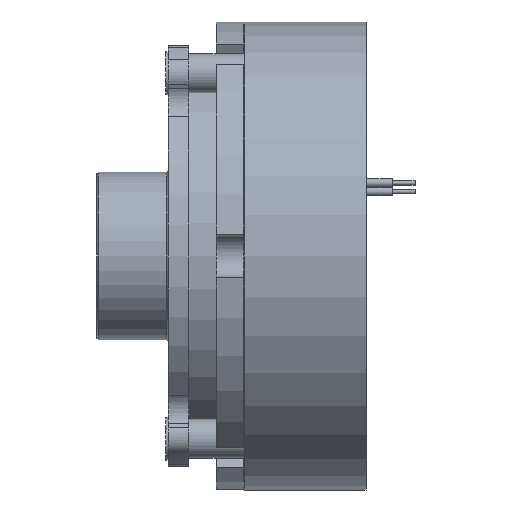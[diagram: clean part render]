
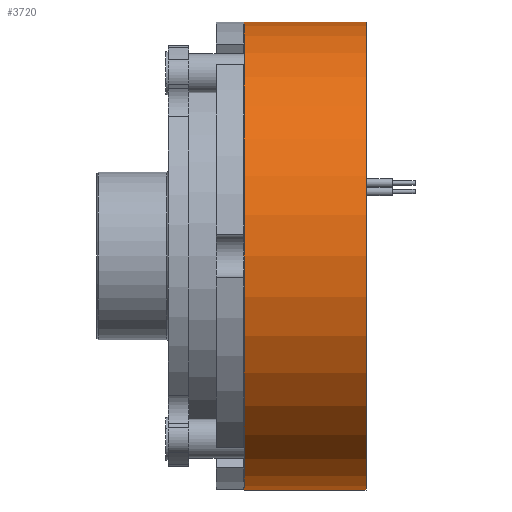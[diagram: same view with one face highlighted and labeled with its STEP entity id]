
A CAD part, front view. The second image highlights one B-rep face of the part: STEP entity #3720.
In plain terms, the highlighted cylindrical face has radius 51 mm (diameter 102 mm), a partial arc.
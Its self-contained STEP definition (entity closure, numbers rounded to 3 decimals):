
#40 = DIRECTION ( 'NONE',  ( -1., 0., 0. ) ) ;
#132 = CARTESIAN_POINT ( 'NONE',  ( 0., 0., -51. ) ) ;
#185 = CARTESIAN_POINT ( 'NONE',  ( 26.5, 0., 51. ) ) ;
#273 = EDGE_CURVE ( 'NONE', #1434, #2522, #2242, .T. ) ;
#327 = EDGE_CURVE ( 'NONE', #2522, #4288, #3989, .T. ) ;
#345 = VECTOR ( 'NONE', #4382, 1000. ) ;
#445 = AXIS2_PLACEMENT_3D ( 'NONE', #4444, #754, #3039 ) ;
#447 = ORIENTED_EDGE ( 'NONE', *, *, #327, .F. ) ;
#448 = DIRECTION ( 'NONE',  ( 0., 0., 1. ) ) ;
#754 = DIRECTION ( 'NONE',  ( -1., 0., 0. ) ) ;
#771 = EDGE_LOOP ( 'NONE', ( #3278, #1717, #1502, #447 ) ) ;
#936 = EDGE_CURVE ( 'NONE', #1657, #4288, #2426, .T. ) ;
#1263 = AXIS2_PLACEMENT_3D ( 'NONE', #3229, #3659, #448 ) ;
#1434 = VERTEX_POINT ( 'NONE', #3455 ) ;
#1502 = ORIENTED_EDGE ( 'NONE', *, *, #936, .T. ) ;
#1522 = CARTESIAN_POINT ( 'NONE',  ( 0., 0., 51. ) ) ;
#1657 = VERTEX_POINT ( 'NONE', #185 ) ;
#1717 = ORIENTED_EDGE ( 'NONE', *, *, #1876, .T. ) ;
#1876 = EDGE_CURVE ( 'NONE', #1434, #1657, #2096, .T. ) ;
#2096 = CIRCLE ( 'NONE', #1263, 51. ) ;
#2155 = VECTOR ( 'NONE', #40, 1000. ) ;
#2242 = LINE ( 'NONE', #3242, #2155 ) ;
#2426 = LINE ( 'NONE', #3290, #345 ) ;
#2522 = VERTEX_POINT ( 'NONE', #132 ) ;
#2742 = FACE_OUTER_BOUND ( 'NONE', #771, .T. ) ;
#3039 = DIRECTION ( 'NONE',  ( 0., 0., 1. ) ) ;
#3131 = DIRECTION ( 'NONE',  ( -1., 0., 0. ) ) ;
#3175 = CARTESIAN_POINT ( 'NONE',  ( 0., 0., 0. ) ) ;
#3229 = CARTESIAN_POINT ( 'NONE',  ( 26.5, 0., 0. ) ) ;
#3242 = CARTESIAN_POINT ( 'NONE',  ( 0., 0., -51. ) ) ;
#3278 = ORIENTED_EDGE ( 'NONE', *, *, #273, .F. ) ;
#3290 = CARTESIAN_POINT ( 'NONE',  ( 0., 0., 51. ) ) ;
#3455 = CARTESIAN_POINT ( 'NONE',  ( 26.5, 0., -51. ) ) ;
#3659 = DIRECTION ( 'NONE',  ( -1., 0., 0. ) ) ;
#3676 = CYLINDRICAL_SURFACE ( 'NONE', #4297, 51. ) ;
#3720 = ADVANCED_FACE ( 'NONE', ( #2742 ), #3676, .T. ) ;
#3989 = CIRCLE ( 'NONE', #445, 51. ) ;
#4288 = VERTEX_POINT ( 'NONE', #1522 ) ;
#4297 = AXIS2_PLACEMENT_3D ( 'NONE', #3175, #3131, #4595 ) ;
#4382 = DIRECTION ( 'NONE',  ( -1., 0., 0. ) ) ;
#4444 = CARTESIAN_POINT ( 'NONE',  ( 0., 0., 0. ) ) ;
#4595 = DIRECTION ( 'NONE',  ( 0., 0., 1. ) ) ;
